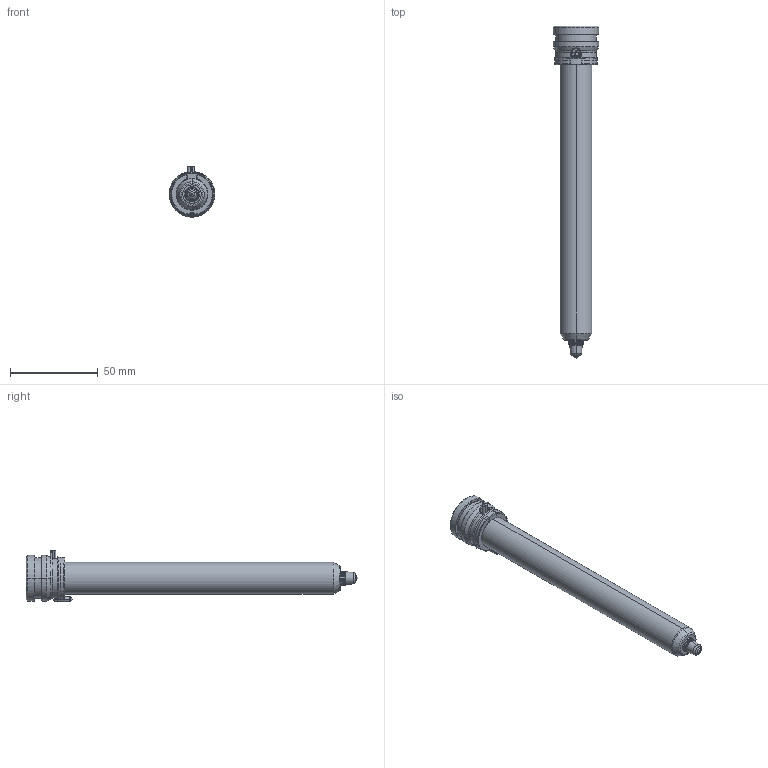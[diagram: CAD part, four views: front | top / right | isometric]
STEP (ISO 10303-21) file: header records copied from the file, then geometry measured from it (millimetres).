
FILE_DESCRIPTION((''),'2;1');
FILE_NAME('TH18171-A-1B50-PK-JG','2023-12-14T',('umhib'),('Thermoplay S.p.A.'),'PRO/ENGINEER BY PARAMETRIC TECHNOLOGY CORPORATION, 2017170','PRO/ENGINEER BY PARAMETRIC TECHNOLOGY CORPORATION, 2017170','');
FILE_SCHEMA(('CONFIG_CONTROL_DESIGN'));
Length unit declared in the file: millimetre
Products named in the file (1): TH18171-A-1B50-PK-JG
Bounding box: 26 x 189 x 29.5 mm (x, y, z)
Volume: 36792.3 mm3; surface area: 26853.1 mm2
Topology: 1 solids, 2 shells, 394 faces, 1026 edges, 637 vertices
Faces by surface type: cylinder 151, plane 85, cone 66, torus 54, bspline 24, sphere 12, extrusion 2
Entity records: 17996 total; most frequent: CARTESIAN_POINT 6173, ORIENTED_EDGE 2028, DIRECTION 2015, EDGE_CURVE 1016, AXIS2_PLACEMENT_3D 808, VERTEX_POINT 637, CIRCLE 439, EDGE_LOOP 414
